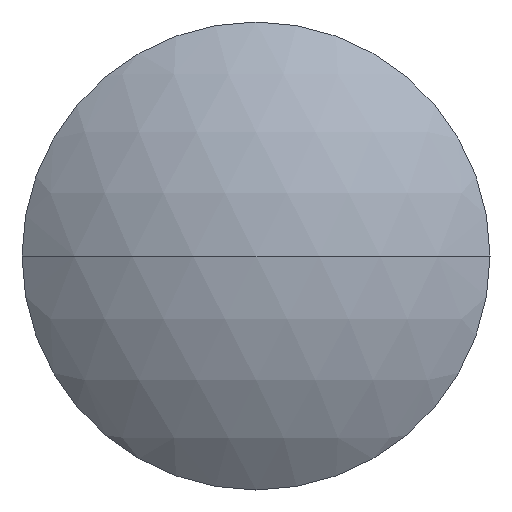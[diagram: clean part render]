
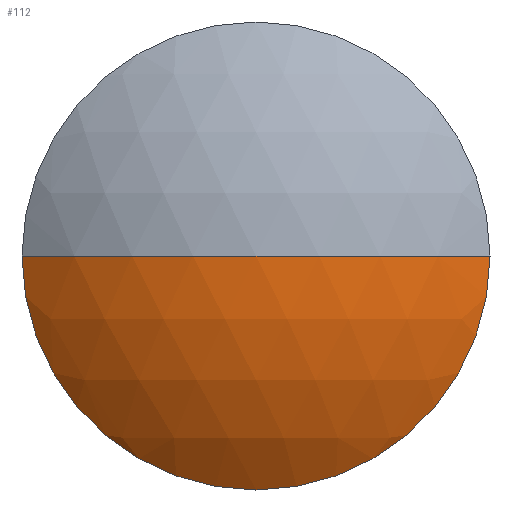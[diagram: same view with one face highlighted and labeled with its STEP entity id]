
A CAD part, left-side view. The second image highlights one B-rep face of the part: STEP entity #112.
In plain terms, the highlighted spherical face has radius 26.66 mm.
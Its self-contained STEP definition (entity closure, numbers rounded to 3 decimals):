
#12 = VERTEX_POINT ( 'NONE', #168 ) ;
#14 = AXIS2_PLACEMENT_3D ( 'NONE', #248, #331, #224 ) ;
#25 = VERTEX_POINT ( 'NONE', #250 ) ;
#32 = CARTESIAN_POINT ( 'NONE',  ( -2., 0., -16.85 ) ) ;
#49 = DIRECTION ( 'NONE',  ( 0., 0., -1. ) ) ;
#53 = FACE_OUTER_BOUND ( 'NONE', #154, .T. ) ;
#54 = DIRECTION ( 'NONE',  ( -1., 0., 0. ) ) ;
#62 = EDGE_CURVE ( 'NONE', #12, #123, #175, .T. ) ;
#67 = ORIENTED_EDGE ( 'NONE', *, *, #97, .T. ) ;
#94 = CARTESIAN_POINT ( 'NONE',  ( -2., 0., 0. ) ) ;
#97 = EDGE_CURVE ( 'NONE', #316, #12, #198, .T. ) ;
#112 = ADVANCED_FACE ( 'NONE', ( #53 ), #333, .T. ) ;
#113 = CIRCLE ( 'NONE', #311, 26.66 ) ;
#117 = DIRECTION ( 'NONE',  ( 1., 0., 0. ) ) ;
#123 = VERTEX_POINT ( 'NONE', #339 ) ;
#147 = AXIS2_PLACEMENT_3D ( 'NONE', #297, #49, #269 ) ;
#153 = CARTESIAN_POINT ( 'NONE',  ( 18.66, 0., 0. ) ) ;
#154 = EDGE_LOOP ( 'NONE', ( #332, #67, #287, #187 ) ) ;
#168 = CARTESIAN_POINT ( 'NONE',  ( -2., -16.85, 0. ) ) ;
#175 = CIRCLE ( 'NONE', #14, 26.66 ) ;
#187 = ORIENTED_EDGE ( 'NONE', *, *, #328, .F. ) ;
#190 = CARTESIAN_POINT ( 'NONE',  ( -2., 0., 0. ) ) ;
#198 = CIRCLE ( 'NONE', #265, 16.85 ) ;
#204 = EDGE_CURVE ( 'NONE', #25, #316, #321, .T. ) ;
#206 = DIRECTION ( 'NONE',  ( -1., 0., 0. ) ) ;
#224 = DIRECTION ( 'NONE',  ( 0., 1., 0. ) ) ;
#248 = CARTESIAN_POINT ( 'NONE',  ( 18.66, 0., 0. ) ) ;
#250 = CARTESIAN_POINT ( 'NONE',  ( -2., 16.85, 0. ) ) ;
#258 = AXIS2_PLACEMENT_3D ( 'NONE', #94, #206, #340 ) ;
#264 = DIRECTION ( 'NONE',  ( 0., 0., 1. ) ) ;
#265 = AXIS2_PLACEMENT_3D ( 'NONE', #190, #54, #302 ) ;
#269 = DIRECTION ( 'NONE',  ( 0., 1., 0. ) ) ;
#287 = ORIENTED_EDGE ( 'NONE', *, *, #62, .T. ) ;
#297 = CARTESIAN_POINT ( 'NONE',  ( 18.66, 0., 0. ) ) ;
#302 = DIRECTION ( 'NONE',  ( 0., 0., 1. ) ) ;
#311 = AXIS2_PLACEMENT_3D ( 'NONE', #153, #264, #117 ) ;
#316 = VERTEX_POINT ( 'NONE', #32 ) ;
#321 = CIRCLE ( 'NONE', #258, 16.85 ) ;
#328 = EDGE_CURVE ( 'NONE', #25, #123, #113, .T. ) ;
#331 = DIRECTION ( 'NONE',  ( 0., 0., -1. ) ) ;
#332 = ORIENTED_EDGE ( 'NONE', *, *, #204, .T. ) ;
#333 = SPHERICAL_SURFACE ( 'NONE', #147, 26.66 ) ;
#339 = CARTESIAN_POINT ( 'NONE',  ( -8., 0., 0. ) ) ;
#340 = DIRECTION ( 'NONE',  ( 0., 0., 1. ) ) ;
